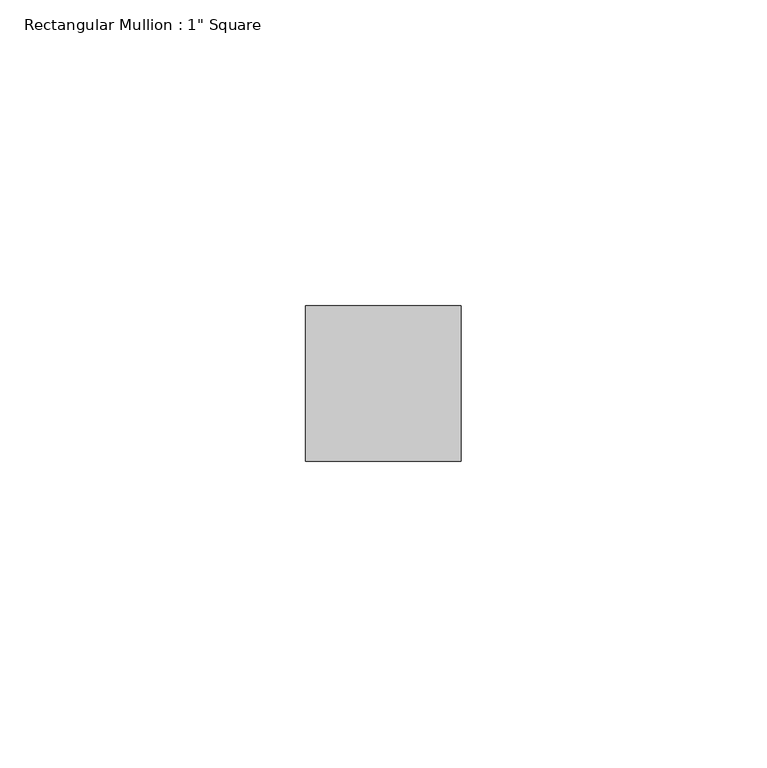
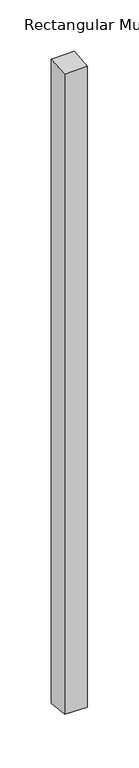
"""IFC4 building model written with IfcOpenShell, lengths in millimetres: member geometry."""

from ifc_helpers import new_model, si_unit, origin, place, context, project, spatial, faceted_brep, source, transform, mapped, element, save


def member_c4213f63(model_context):
    return source(origin(), model_context, "Body", "Brep", [
        faceted_brep([(-25.4, 12.7, 0.67487), (0.0, 12.7, 1.0457153), (0.0, 12.7, -763.0457153), (-25.4, 12.7, -762.67487), (-25.4, -12.7, -1.4165607), (-25.4, -12.7, -760.5834393), (0.0, -12.7, -1.0457153), (0.0, -12.7, -760.9542847)], [[[0, 1, 2, 3]], [[4, 0, 3, 5]], [[6, 4, 5, 7]], [[1, 6, 7, 2]], [[1, 0, 4, 6]], [[2, 7, 5, 3]]]),
    ])


if __name__ == "__main__":
    model = new_model("IFC4")
    model_context = context("Model", 3, world=origin())
    ifc_project = project(units=[si_unit("LENGTHUNIT", "METRE", prefix="MILLI")], contexts=[model_context])
    site = spatial("IfcSite", under=ifc_project)
    building = spatial("IfcBuilding", under=site)
    placement = place(None, origin())
    member_shape = member_c4213f63(model_context)
    element("IfcMember", 1, ObjectType="Rectangular Mullion : 1\" Square", at=placement, inside=building, context=model_context, shape_type="MappedRepresentation", body=[
        mapped(member_shape, transform((0.0, 0.0, 0.0), x_axis=(1.0, 0.0, 0.0), y_axis=(0.0, 1.0, 0.0), z_axis=(0.0, 0.0, 1.0))),
    ])
    save(model, "model.ifc")
